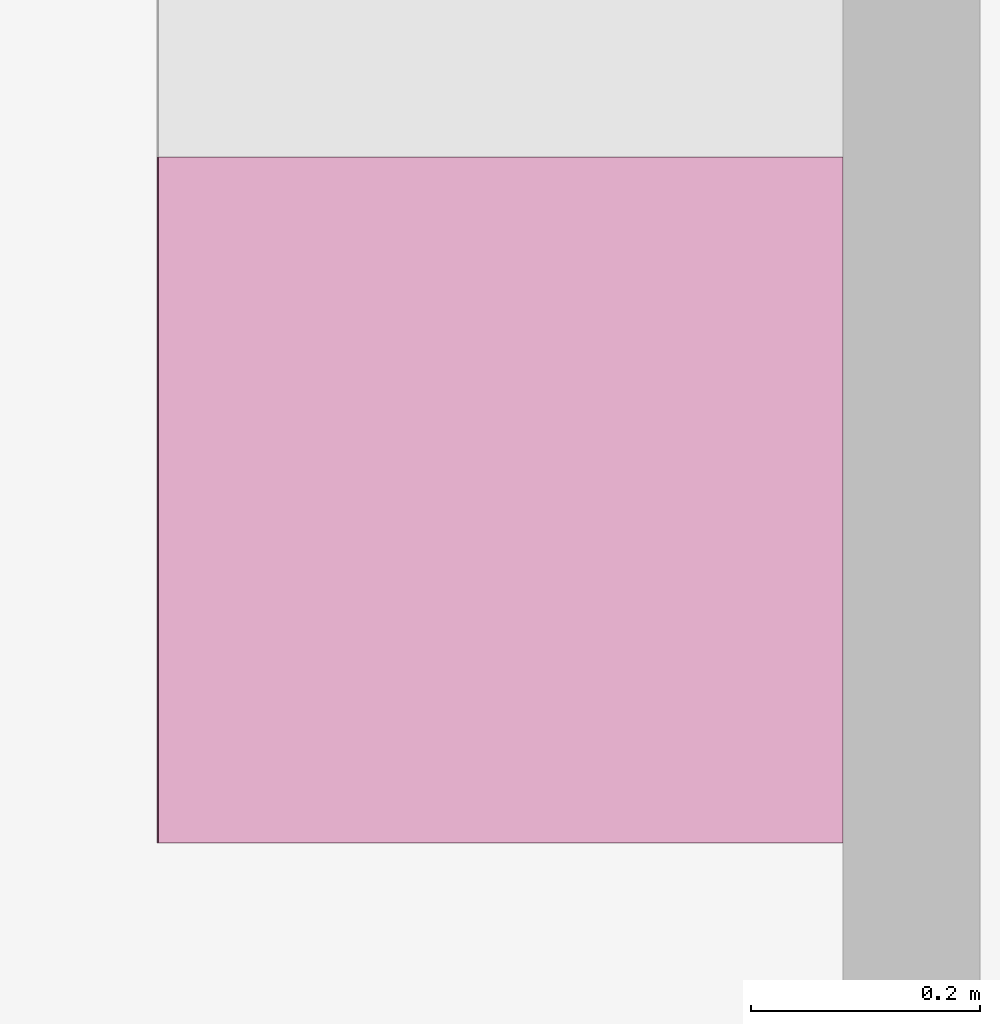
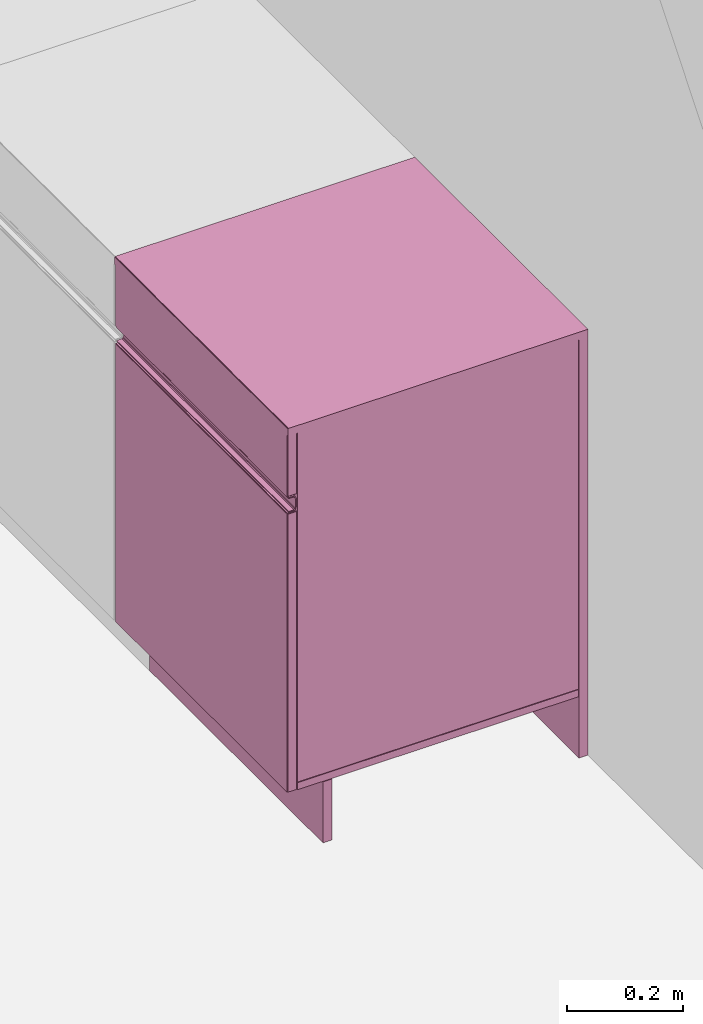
"""IFC4 building model written with IfcOpenShell, lengths in metres."""

from ifc_helpers import new_model, entity, si_unit, converted_unit, derived_unit, frame, origin, place, context, subcontext, project, spatial, faceted_brep, element, save


model = new_model("IFC4")

# Units and contexts
model_context = context("Model", 3, precision=1e-05, world=origin())
body_context = subcontext(model_context, "Body", "Model", "MODEL_VIEW")
ifc_project = project(units=[si_unit("LENGTHUNIT", "METRE"), si_unit("AREAUNIT", "SQUARE_METRE"), si_unit("VOLUMEUNIT", "CUBIC_METRE"), si_unit("MASSUNIT", "GRAM", prefix="KILO"), converted_unit("PLANEANGLEUNIT", "DEGREE", entity("IfcPlaneAngleMeasure", 0.0174532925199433), si_unit("PLANEANGLEUNIT", "RADIAN"), dimensions=[0, 0, 0, 0, 0, 0, 0]), derived_unit("THERMALTRANSMITTANCEUNIT", [(si_unit("POWERUNIT", "WATT"), 1), (si_unit("THERMODYNAMICTEMPERATUREUNIT", "KELVIN"), -1), (si_unit("LENGTHUNIT", "METRE"), -2)]), derived_unit("VOLUMETRICFLOWRATEUNIT", [(si_unit("LENGTHUNIT", "METRE"), 3), (converted_unit("TIMEUNIT", "hour", entity("IfcTimeMeasure", 3600.0), si_unit("TIMEUNIT", "SECOND"), dimensions=[0, 0, 1, 0, 0, 0, 0]), -1), (si_unit("LENGTHUNIT", "METRE"), -1)])], contexts=[model_context])

# Building, storeys
building_placement = place(None, origin())
building = spatial("IfcBuilding", under=ifc_project, at=building_placement, Name="HABITATGE PLURIFAMILIAR", CompositionType="ELEMENT")
storey_1_placement = place(building_placement, frame((0.0, 0.0, 3.35)))
storey_1 = spatial("IfcBuildingStorey", under=building, at=storey_1_placement, Name="PLANTA  ALTELL", CompositionType="ELEMENT", Elevation=3.35)
storey_2_placement = place(storey_1_placement, origin())
storey_2 = spatial("IfcBuildingStorey", under=storey_1, at=storey_2_placement, Name="NOU", CompositionType="PARTIAL")

# Furniture
furniture_placement = place(storey_2_placement, frame((406.271931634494, 20.3195914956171, 0.0)))
element("IfcFurniture", 1, at=furniture_placement, inside=storey_2, Name="Taulells_PA", context=body_context, shape_type="Brep", body=[
    faceted_brep([(0.600000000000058, 0.0, 0.0), (0.600000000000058, 0.600000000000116, 0.0), (0.582000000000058, 0.600000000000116, 0.0), (0.582000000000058, 0.0, 0.0), (0.582000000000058, 0.0, 0.883800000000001), (0.582000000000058, 0.600000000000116, 0.883800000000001), (0.600000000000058, 0.600000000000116, 0.883800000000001), (0.600000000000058, 0.0, 0.883800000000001)], [[[0, 1, 2, 3]], [[4, 5, 6, 7]], [[3, 4, 7, 0]], [[2, 5, 4, 3]], [[1, 6, 5, 2]], [[0, 7, 6, 1]]], orient=[[False], [False], [False], [False], [False], [False]]),
    faceted_brep([(0.0180000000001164, 0.00200000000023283, 0.755800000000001), (0.00200000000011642, 0.00200000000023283, 0.755800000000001), (0.00200000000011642, 0.00200000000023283, 0.883800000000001), (0.0180000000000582, 0.00200000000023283, 0.883800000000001), (0.00165270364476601, 0.00203038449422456, 0.755452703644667), (0.00165270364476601, 0.00203038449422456, 0.883800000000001), (0.00131595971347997, 0.00212061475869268, 0.75511595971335), (0.00131595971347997, 0.00212061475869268, 0.883800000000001), (0.00100000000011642, 0.00226794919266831, 0.754800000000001), (0.00100000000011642, 0.00226794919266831, 0.883800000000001), (0.000714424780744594, 0.00246791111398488, 0.754514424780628), (0.000714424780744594, 0.00246791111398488, 0.883800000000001), (0.000591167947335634, 0.00259116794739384, 0.754391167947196), (0.000467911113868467, 0.0027144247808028, 0.754514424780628), (0.000467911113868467, 0.0027144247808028, 0.883800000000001), (0.000267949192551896, 0.00300000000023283, 0.754800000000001), (0.000267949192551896, 0.00300000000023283, 0.883800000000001), (0.000120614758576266, 0.00331595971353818, 0.75511595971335), (0.000120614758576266, 0.00331595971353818, 0.883800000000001), (3.03844941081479e-05, 0.00365270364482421, 0.755452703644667), (3.03844941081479e-05, 0.00365270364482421, 0.883800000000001), (0.0, 0.00400000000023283, 0.755800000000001), (0.0, 0.00400000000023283, 0.883800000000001), (0.0, 0.596000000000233, 0.755800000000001), (0.0, 0.596000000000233, 0.883800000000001), (0.00200000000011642, 0.598000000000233, 0.755800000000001), (0.0180000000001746, 0.598000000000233, 0.755800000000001), (0.0180000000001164, 0.598000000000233, 0.883800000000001), (0.00200000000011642, 0.598000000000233, 0.883800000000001), (0.00165270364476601, 0.597969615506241, 0.883800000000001), (0.00165270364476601, 0.597969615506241, 0.755452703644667), (0.00131595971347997, 0.597879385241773, 0.883800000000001), (0.00131595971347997, 0.597879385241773, 0.75511595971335), (0.00100000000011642, 0.597732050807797, 0.883800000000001), (0.00100000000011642, 0.597732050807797, 0.754800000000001), (0.000714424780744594, 0.597532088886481, 0.883800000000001), (0.000714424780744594, 0.597532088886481, 0.754514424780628), (0.000467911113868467, 0.597285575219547, 0.883800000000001), (0.000467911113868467, 0.597285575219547, 0.754514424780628), (0.000591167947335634, 0.597408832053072, 0.754391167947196), (0.000267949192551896, 0.597000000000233, 0.883800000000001), (0.000267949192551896, 0.597000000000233, 0.754800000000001), (0.000120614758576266, 0.596684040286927, 0.883800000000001), (0.000120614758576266, 0.596684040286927, 0.75511595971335), (3.03844941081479e-05, 0.596347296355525, 0.883800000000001), (3.03844941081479e-05, 0.596347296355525, 0.755452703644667), (0.0180000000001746, 0.596000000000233, 0.753800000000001), (0.00200000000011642, 0.596000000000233, 0.753800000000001), (0.00200000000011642, 0.00400000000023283, 0.753800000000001), (0.0180000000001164, 0.00400000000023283, 0.753800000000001), (0.00165270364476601, 0.00365270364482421, 0.753830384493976), (0.0180000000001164, 0.00365270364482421, 0.753830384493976), (0.00131595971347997, 0.00331595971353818, 0.753920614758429), (0.0180000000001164, 0.00331595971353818, 0.753920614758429), (0.00100000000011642, 0.00300000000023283, 0.754067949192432), (0.0180000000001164, 0.00300000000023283, 0.754067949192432), (0.000714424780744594, 0.0027144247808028, 0.754267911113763), (0.0180000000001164, 0.0027144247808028, 0.754267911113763), (0.0180000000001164, 0.00246791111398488, 0.754514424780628), (0.0180000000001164, 0.00226794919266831, 0.754800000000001), (0.0180000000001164, 0.00212061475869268, 0.75511595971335), (0.0180000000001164, 0.00203038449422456, 0.755452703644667), (0.00165270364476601, 0.596347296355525, 0.753830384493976), (0.00131595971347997, 0.596684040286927, 0.753920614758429), (0.00100000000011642, 0.597000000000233, 0.754067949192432), (0.000714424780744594, 0.597285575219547, 0.754267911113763), (0.0180000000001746, 0.596347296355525, 0.753830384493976), (0.0180000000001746, 0.596684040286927, 0.753920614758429), (0.0180000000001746, 0.597000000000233, 0.754067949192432), (0.0180000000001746, 0.597285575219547, 0.754267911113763), (0.0180000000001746, 0.597532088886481, 0.754514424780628), (0.0180000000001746, 0.597732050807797, 0.754800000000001), (0.0180000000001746, 0.597879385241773, 0.75511595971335), (0.0180000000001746, 0.597969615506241, 0.755452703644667)], [[[0, 1, 2, 3]], [[2, 1, 4, 5]], [[5, 4, 6, 7]], [[7, 6, 8, 9]], [[9, 8, 10, 11]], [[11, 10, 12, 13, 14]], [[14, 13, 15, 16]], [[16, 15, 17, 18]], [[18, 17, 19, 20]], [[20, 19, 21, 22]], [[22, 21, 23, 24]], [[25, 26, 27, 28]], [[29, 30, 25, 28]], [[31, 32, 30, 29]], [[33, 34, 32, 31]], [[35, 36, 34, 33]], [[37, 38, 39, 36, 35]], [[40, 41, 38, 37]], [[42, 43, 41, 40]], [[44, 45, 43, 42]], [[24, 23, 45, 44]], [[46, 47, 48, 49]], [[49, 48, 50, 51]], [[51, 50, 52, 53]], [[53, 52, 54, 55]], [[55, 54, 56, 57]], [[57, 56, 12, 10, 58]], [[58, 10, 8, 59]], [[59, 8, 6, 60]], [[60, 6, 4, 61]], [[61, 4, 1, 0]], [[47, 62, 50, 48]], [[62, 63, 52, 50]], [[63, 64, 54, 52]], [[64, 65, 56, 54]], [[65, 39, 38, 13, 12, 56]], [[38, 41, 15, 13]], [[41, 43, 17, 15]], [[43, 45, 19, 17]], [[45, 23, 21, 19]], [[66, 62, 47, 46]], [[67, 63, 62, 66]], [[68, 64, 63, 67]], [[69, 65, 64, 68]], [[70, 36, 39, 65, 69]], [[71, 34, 36, 70]], [[72, 32, 34, 71]], [[73, 30, 32, 72]], [[26, 25, 30, 73]], [[27, 26, 73, 72, 71, 70, 69, 68, 67, 66, 46, 49, 51, 53, 55, 57, 58, 59, 60, 61, 0, 3]], [[2, 5, 7, 9, 11, 14, 16, 18, 20, 22, 24, 44, 42, 40, 37, 35, 33, 31, 29, 28, 27, 3]]], orient=[[False], [False], [False], [False], [False], [False], [False], [False], [False], [False], [False], [False], [False], [False], [False], [False], [False], [False], [False], [False], [False], [False], [False], [False], [False], [False], [False], [False], [False], [False], [False], [False], [False], [False], [False], [False], [False], [False], [False], [False], [False], [False], [False], [False], [False], [False], [False], [False], [False], [False], [False]]),
    faceted_brep([(0.0180000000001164, 0.00200000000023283, 0.130000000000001), (0.00200000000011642, 0.00200000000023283, 0.130000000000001), (0.00200000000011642, 0.00200000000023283, 0.716800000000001), (0.0180000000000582, 0.00200000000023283, 0.716800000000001), (0.00165270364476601, 0.00203038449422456, 0.130000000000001), (0.00165270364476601, 0.00203038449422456, 0.717147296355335), (0.00131595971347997, 0.00212061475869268, 0.130000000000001), (0.00131595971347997, 0.00212061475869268, 0.717484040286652), (0.00100000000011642, 0.00226794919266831, 0.130000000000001), (0.00100000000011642, 0.00226794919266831, 0.717800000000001), (0.000714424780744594, 0.00246791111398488, 0.130000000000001), (0.000714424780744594, 0.00246791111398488, 0.718085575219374), (0.000467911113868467, 0.0027144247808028, 0.130000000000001), (0.000467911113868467, 0.0027144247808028, 0.718085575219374), (0.000591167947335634, 0.00259116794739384, 0.718208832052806), (0.000267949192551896, 0.00300000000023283, 0.130000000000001), (0.000267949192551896, 0.00300000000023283, 0.717800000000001), (0.000120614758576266, 0.00331595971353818, 0.130000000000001), (0.000120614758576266, 0.00331595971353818, 0.717484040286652), (3.03844941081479e-05, 0.00365270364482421, 0.130000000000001), (3.03844941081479e-05, 0.00365270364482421, 0.717147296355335), (0.0, 0.00400000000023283, 0.130000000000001), (0.0, 0.00400000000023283, 0.716800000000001), (0.0, 0.596000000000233, 0.130000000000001), (0.0, 0.596000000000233, 0.716800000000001), (0.00200000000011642, 0.596000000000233, 0.718800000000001), (0.0180000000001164, 0.596000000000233, 0.718800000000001), (0.0180000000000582, 0.00400000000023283, 0.718800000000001), (0.00200000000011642, 0.00400000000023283, 0.718800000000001), (0.00165270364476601, 0.00365270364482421, 0.718769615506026), (0.00165270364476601, 0.596347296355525, 0.718769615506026), (0.00131595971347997, 0.00331595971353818, 0.718679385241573), (0.00131595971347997, 0.596684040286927, 0.718679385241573), (0.00100000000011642, 0.00300000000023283, 0.71853205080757), (0.00100000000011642, 0.597000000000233, 0.71853205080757), (0.000714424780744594, 0.0027144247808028, 0.718332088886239), (0.000714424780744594, 0.597285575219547, 0.718332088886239), (0.000467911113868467, 0.597285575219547, 0.718085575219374), (0.000591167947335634, 0.597408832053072, 0.718208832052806), (0.000267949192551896, 0.597000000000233, 0.717800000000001), (0.000120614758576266, 0.596684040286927, 0.717484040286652), (3.03844941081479e-05, 0.596347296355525, 0.717147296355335), (0.0180000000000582, 0.00365270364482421, 0.718769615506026), (0.0180000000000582, 0.00331595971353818, 0.718679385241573), (0.0180000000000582, 0.00300000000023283, 0.71853205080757), (0.0180000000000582, 0.0027144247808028, 0.718332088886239), (0.0180000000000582, 0.00246791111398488, 0.718085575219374), (0.0180000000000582, 0.00226794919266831, 0.717800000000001), (0.0180000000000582, 0.00212061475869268, 0.717484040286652), (0.0180000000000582, 0.00203038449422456, 0.717147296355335), (0.00200000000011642, 0.598000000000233, 0.130000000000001), (0.0180000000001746, 0.598000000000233, 0.130000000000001), (0.0180000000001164, 0.598000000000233, 0.716800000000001), (0.00200000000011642, 0.598000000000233, 0.716800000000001), (0.0180000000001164, 0.596347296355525, 0.718769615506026), (0.0180000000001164, 0.596684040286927, 0.718679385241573), (0.0180000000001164, 0.597000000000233, 0.71853205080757), (0.0180000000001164, 0.597285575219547, 0.718332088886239), (0.000714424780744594, 0.597532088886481, 0.718085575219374), (0.0180000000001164, 0.597532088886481, 0.718085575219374), (0.00100000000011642, 0.597732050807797, 0.717800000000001), (0.0180000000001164, 0.597732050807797, 0.717800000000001), (0.00131595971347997, 0.597879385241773, 0.717484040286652), (0.0180000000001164, 0.597879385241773, 0.717484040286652), (0.00165270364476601, 0.597969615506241, 0.717147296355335), (0.0180000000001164, 0.597969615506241, 0.717147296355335), (0.00165270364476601, 0.597969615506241, 0.130000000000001), (0.00131595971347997, 0.597879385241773, 0.130000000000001), (0.00100000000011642, 0.597732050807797, 0.130000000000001), (0.000714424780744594, 0.597532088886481, 0.130000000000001), (0.000467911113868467, 0.597285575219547, 0.130000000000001), (0.000267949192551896, 0.597000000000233, 0.130000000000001), (0.000120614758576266, 0.596684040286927, 0.130000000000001), (3.03844941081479e-05, 0.596347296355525, 0.130000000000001)], [[[0, 1, 2, 3]], [[2, 1, 4, 5]], [[5, 4, 6, 7]], [[7, 6, 8, 9]], [[9, 8, 10, 11]], [[11, 10, 12, 13, 14]], [[13, 12, 15, 16]], [[16, 15, 17, 18]], [[18, 17, 19, 20]], [[20, 19, 21, 22]], [[22, 21, 23, 24]], [[25, 26, 27, 28]], [[25, 28, 29, 30]], [[30, 29, 31, 32]], [[32, 31, 33, 34]], [[34, 33, 35, 36]], [[36, 35, 14, 13, 37, 38]], [[37, 13, 16, 39]], [[39, 16, 18, 40]], [[40, 18, 20, 41]], [[41, 20, 22, 24]], [[28, 27, 42, 29]], [[29, 42, 43, 31]], [[31, 43, 44, 33]], [[33, 44, 45, 35]], [[35, 45, 46, 11, 14]], [[11, 46, 47, 9]], [[9, 47, 48, 7]], [[7, 48, 49, 5]], [[5, 49, 3, 2]], [[50, 51, 52, 53]], [[26, 25, 30, 54]], [[54, 30, 32, 55]], [[55, 32, 34, 56]], [[56, 34, 36, 57]], [[57, 36, 38, 58, 59]], [[59, 58, 60, 61]], [[61, 60, 62, 63]], [[63, 62, 64, 65]], [[65, 64, 53, 52]], [[53, 64, 66, 50]], [[64, 62, 67, 66]], [[62, 60, 68, 67]], [[60, 58, 69, 68]], [[58, 38, 37, 70, 69]], [[37, 39, 71, 70]], [[39, 40, 72, 71]], [[40, 41, 73, 72]], [[41, 24, 23, 73]], [[3, 49, 48, 47, 46, 45, 44, 43, 42, 27, 26, 54, 55, 56, 57, 59, 61, 63, 65, 52, 51, 0]], [[1, 0, 51, 50, 66, 67, 68, 69, 70, 71, 72, 73, 23, 21, 19, 17, 15, 12, 10, 8, 6, 4]]], orient=[[False], [False], [False], [False], [False], [False], [False], [False], [False], [False], [False], [False], [False], [False], [False], [False], [False], [False], [False], [False], [False], [False], [False], [False], [False], [False], [False], [False], [False], [False], [False], [False], [False], [False], [False], [False], [False], [False], [False], [False], [False], [False], [False], [False], [False], [False], [False], [False], [False], [False], [False]]),
    faceted_brep([(0.0880000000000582, 0.0, 0.0), (0.0880000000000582, 0.600000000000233, 0.0), (0.0700000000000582, 0.600000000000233, 0.0), (0.0700000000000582, 0.0, 0.0), (0.0700000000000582, 0.0, 0.128800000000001), (0.0700000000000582, 0.600000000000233, 0.128800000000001), (0.0880000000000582, 0.600000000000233, 0.128800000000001), (0.0880000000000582, 0.0, 0.128800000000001)], [[[0, 1, 2, 3]], [[4, 5, 6, 7]], [[5, 4, 3, 2]], [[7, 6, 1, 0]], [[2, 1, 6, 5]], [[0, 3, 4, 7]]], orient=[[False], [False], [False], [False], [False], [False]]),
    faceted_brep([(0.0192000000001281, 0.600000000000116, 0.130000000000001), (0.0192000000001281, 0.0, 0.130000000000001), (0.580800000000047, 0.0, 0.130000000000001), (0.580800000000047, 0.600000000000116, 0.130000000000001), (0.580800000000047, 0.600000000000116, 0.145000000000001), (0.580800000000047, 0.0, 0.145000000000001), (0.0192000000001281, 0.0, 0.145000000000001), (0.0192000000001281, 0.600000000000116, 0.145000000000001)], [[[0, 1, 2, 3]], [[4, 5, 6, 7]], [[3, 4, 7, 0]], [[2, 5, 4, 3]], [[1, 6, 5, 2]], [[0, 7, 6, 1]]], orient=[[False], [False], [False], [False], [False], [False]]),
    faceted_brep([(0.580800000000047, 0.600000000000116, 0.146200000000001), (0.0192000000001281, 0.600000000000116, 0.146200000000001), (0.0192000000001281, 0.582000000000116, 0.146200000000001), (0.580800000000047, 0.582000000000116, 0.146200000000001), (0.580800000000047, 0.582000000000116, 0.883800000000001), (0.0192000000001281, 0.582000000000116, 0.883800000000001), (0.0192000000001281, 0.600000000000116, 0.883800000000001), (0.580800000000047, 0.600000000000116, 0.883800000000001)], [[[0, 1, 2, 3]], [[4, 5, 6, 7]], [[3, 4, 7, 0]], [[2, 5, 4, 3]], [[1, 6, 5, 2]], [[0, 7, 6, 1]]], orient=[[False], [False], [False], [False], [False], [False]]),
    faceted_brep([(0.580800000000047, 0.0, 0.146200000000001), (0.580800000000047, 0.0180000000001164, 0.146200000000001), (0.0192000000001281, 0.0180000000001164, 0.146200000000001), (0.0192000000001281, 0.0, 0.146200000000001), (0.580800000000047, 0.0180000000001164, 0.883800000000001), (0.580800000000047, 0.0, 0.883800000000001), (0.0192000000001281, 0.0, 0.883800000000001), (0.0192000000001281, 0.0180000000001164, 0.883800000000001)], [[[0, 1, 2, 3]], [[4, 5, 6, 7]], [[1, 0, 5, 4]], [[2, 1, 4, 7]], [[3, 2, 7, 6]], [[0, 3, 6, 5]]], orient=[[False], [False], [False], [False], [False], [False]]),
    faceted_brep([(0.00250000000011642, 0.598000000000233, 0.749800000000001), (0.00250000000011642, 0.00200000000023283, 0.749800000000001), (0.0109875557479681, 0.00200000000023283, 0.749800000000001), (0.0109875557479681, 0.598000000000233, 0.749800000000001), (0.0129057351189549, 0.00200000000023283, 0.749418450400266), (0.0129057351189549, 0.598000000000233, 0.749418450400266), (0.0145318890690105, 0.00200000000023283, 0.748331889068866), (0.0145318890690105, 0.598000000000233, 0.748331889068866), (0.0156184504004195, 0.00200000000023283, 0.746705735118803), (0.0156184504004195, 0.598000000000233, 0.746705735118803), (0.0160000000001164, 0.00200000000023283, 0.744787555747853), (0.0160000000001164, 0.598000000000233, 0.744787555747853), (0.0160000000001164, 0.00200000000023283, 0.727812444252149), (0.0160000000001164, 0.598000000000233, 0.727812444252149), (0.0156184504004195, 0.00200000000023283, 0.725894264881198), (0.0156184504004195, 0.598000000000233, 0.725894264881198), (0.0145318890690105, 0.00200000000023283, 0.724268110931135), (0.0145318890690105, 0.598000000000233, 0.724268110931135), (0.0129057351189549, 0.00200000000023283, 0.723181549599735), (0.0129057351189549, 0.598000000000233, 0.723181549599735), (0.0109875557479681, 0.00200000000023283, 0.722800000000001), (0.0109875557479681, 0.598000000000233, 0.722800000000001), (0.00250000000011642, 0.00200000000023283, 0.722800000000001), (0.00250000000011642, 0.598000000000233, 0.722800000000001), (0.00250000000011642, 0.00200000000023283, 0.720800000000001), (0.00250000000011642, 0.598000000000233, 0.720800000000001), (0.0109875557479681, 0.00200000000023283, 0.720800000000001), (0.0109875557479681, 0.598000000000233, 0.720800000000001), (0.0136711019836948, 0.00200000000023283, 0.721333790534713), (0.0136711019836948, 0.598000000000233, 0.721333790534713), (0.0159461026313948, 0.00200000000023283, 0.722853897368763), (0.0159461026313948, 0.598000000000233, 0.722853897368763), (0.017466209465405, 0.00200000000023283, 0.725128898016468), (0.017466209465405, 0.598000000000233, 0.725128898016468), (0.0180000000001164, 0.00200000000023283, 0.727812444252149), (0.0180000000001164, 0.598000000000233, 0.727812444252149), (0.0180000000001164, 0.00200000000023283, 0.744787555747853), (0.0180000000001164, 0.598000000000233, 0.744787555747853), (0.017466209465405, 0.00200000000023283, 0.747471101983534), (0.017466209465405, 0.598000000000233, 0.747471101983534), (0.0159461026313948, 0.00200000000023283, 0.749746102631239), (0.0159461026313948, 0.598000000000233, 0.749746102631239), (0.0136711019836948, 0.00200000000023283, 0.751266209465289), (0.0136711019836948, 0.598000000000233, 0.751266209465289), (0.0109875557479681, 0.00200000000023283, 0.751800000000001), (0.0109875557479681, 0.598000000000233, 0.751800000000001), (0.00250000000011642, 0.00200000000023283, 0.751800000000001), (0.00250000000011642, 0.598000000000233, 0.751800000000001)], [[[0, 1, 2, 3]], [[3, 2, 4, 5]], [[5, 4, 6, 7]], [[7, 6, 8, 9]], [[9, 8, 10, 11]], [[11, 10, 12, 13]], [[13, 12, 14, 15]], [[15, 14, 16, 17]], [[17, 16, 18, 19]], [[19, 18, 20, 21]], [[21, 20, 22, 23]], [[23, 22, 24, 25]], [[25, 24, 26, 27]], [[27, 26, 28, 29]], [[29, 28, 30, 31]], [[31, 30, 32, 33]], [[33, 32, 34, 35]], [[35, 34, 36, 37]], [[37, 36, 38, 39]], [[39, 38, 40, 41]], [[41, 40, 42, 43]], [[43, 42, 44, 45]], [[45, 44, 46, 47]], [[47, 46, 1, 0]], [[0, 3, 5, 7, 9, 11, 13, 15, 17, 19, 21, 23, 25, 27, 29, 31, 33, 35, 37, 39, 41, 43, 45, 47]], [[1, 46, 44, 42, 40, 38, 36, 34, 32, 30, 28, 26, 24, 22, 20, 18, 16, 14, 12, 10, 8, 6, 4, 2]]], orient=[[False], [False], [False], [False], [False], [False], [False], [False], [False], [False], [False], [False], [False], [False], [False], [False], [False], [False], [False], [False], [False], [False], [False], [False], [False], [False]]),
    faceted_brep([(0.0, 0.0, 0.883800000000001), (0.0, 0.6, 0.883800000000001), (0.0, 0.6, 0.898000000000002), (0.0, 0.0, 0.898000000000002), (0.6, 0.6, 0.899999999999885), (0.599999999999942, 0.0, 0.899999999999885), (0.00199999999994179, 0.0, 0.900000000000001), (0.002, 0.6, 0.900000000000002), (3.03844939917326e-05, 0.6, 0.898347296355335), (3.03844939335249e-05, 0.0, 0.898347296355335), (0.000120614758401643, 0.6, 0.898684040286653), (0.000120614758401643, 0.0, 0.898684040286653), (0.000267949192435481, 0.6, 0.899000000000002), (0.000267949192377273, 0.0, 0.899000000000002), (0.000467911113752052, 0.6, 0.899285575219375), (0.000467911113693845, 0.0, 0.899285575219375), (0.000714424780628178, 0.6, 0.89953208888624), (0.000714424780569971, 0.0, 0.89953208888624), (0.001, 0.6, 0.89973205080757), (0.000999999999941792, 0.0, 0.89973205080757), (0.00131595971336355, 0.6, 0.899879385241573), (0.00131595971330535, 0.0, 0.899879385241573), (0.00165270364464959, 0.6, 0.899969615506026), (0.00165270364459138, 0.0, 0.899969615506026), (0.6, 0.6, 0.883800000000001), (0.599999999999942, 0.0, 0.883800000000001)], [[[0, 1, 2, 3]], [[4, 5, 6, 7]], [[8, 9, 3, 2]], [[10, 11, 9, 8]], [[12, 13, 11, 10]], [[14, 15, 13, 12]], [[16, 17, 15, 14]], [[18, 19, 17, 16]], [[20, 21, 19, 18]], [[22, 23, 21, 20]], [[7, 6, 23, 22]], [[4, 7, 22, 20, 18, 16, 14, 12, 10, 8, 2, 1, 24]], [[0, 3, 9, 11, 13, 15, 17, 19, 21, 23, 6, 5, 25]], [[4, 24, 25, 5]], [[1, 0, 25, 24]]], orient=[[False], [False], [False], [False], [False], [False], [False], [False], [False], [False], [False], [False], [False], [False], [False]]),
])

save(model, "model.ifc")
